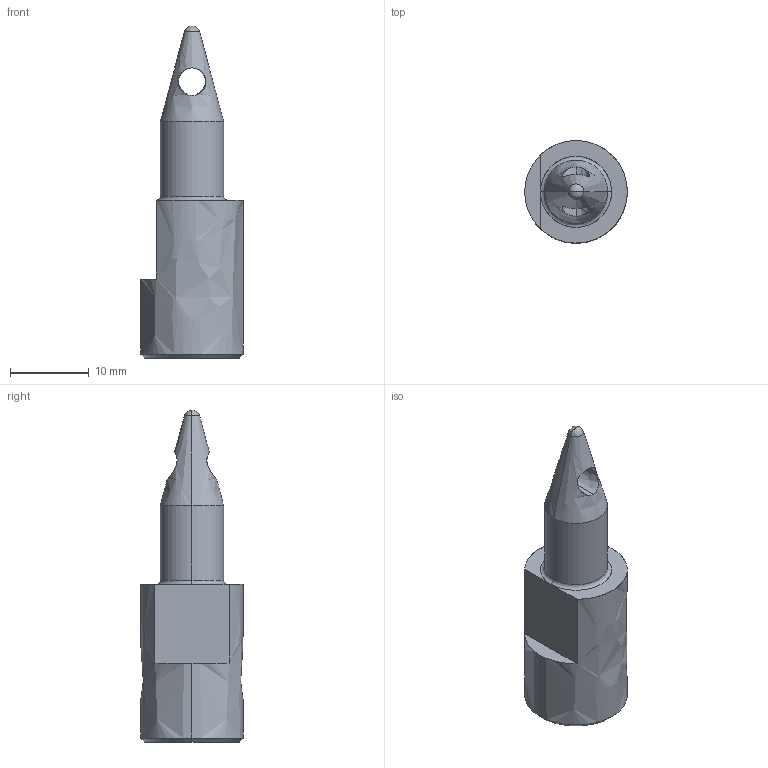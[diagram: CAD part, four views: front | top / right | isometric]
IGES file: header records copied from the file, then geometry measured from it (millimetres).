
Global section: file name: E:\UnigraphicsGraphicData\MISUMI_PRESS-PARTS\IGES\3d_sdkl13_03092_r00.igs; native system: NX V5.0; preprocessor: UGS NX IGES V5.0; author: MISUMI; date: 20110105.162515; units: millimetre
Bounding box: 13 x 13 x 42.06 mm (x, y, z)
Surface area: 1472.9 mm2 (no closed solid volume)
Topology: 0 solids, 0 shells, 18 faces, 121 edges, 119 vertices
Faces by surface type: bspline 18
